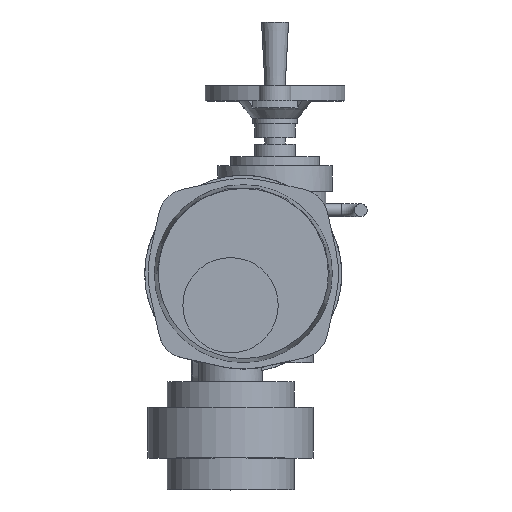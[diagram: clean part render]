
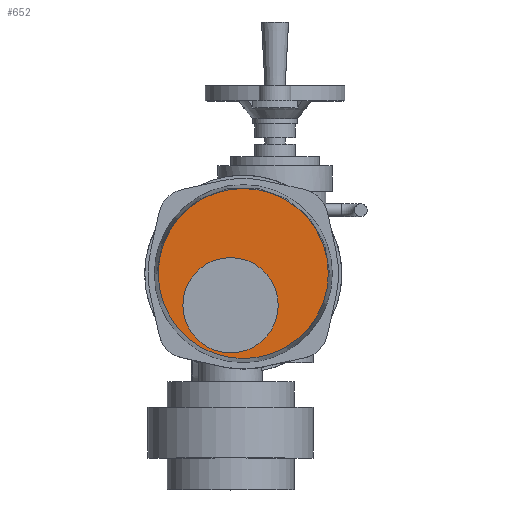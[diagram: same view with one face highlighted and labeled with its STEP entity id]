
A CAD part, top view. The second image highlights one B-rep face of the part: STEP entity #652.
In plain terms, the highlighted planar face has unit normal (0, 0, 1).
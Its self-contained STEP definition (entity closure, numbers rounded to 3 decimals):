
#652=ADVANCED_FACE('',(#7052,#7054),#7056,.T.);
#7052=FACE_BOUND('',#7053,.T.);
#7053=EDGE_LOOP('',(#12083));
#7054=FACE_BOUND('',#7055,.T.);
#7055=EDGE_LOOP('',(#12084));
#7056=PLANE('',#7057);
#7057=AXIS2_PLACEMENT_3D('',#7058,#7059,#7060);
#7058=CARTESIAN_POINT('',(15.,30.,432.));
#7059=DIRECTION('',(0.,0.,1.));
#7060=DIRECTION('',(-1.,0.,0.));
#12083=ORIENTED_EDGE('',*,*,#15923,.T.);
#12084=ORIENTED_EDGE('',*,*,#15926,.F.);
#15923=EDGE_CURVE('',#18045,#18045,#18046,.T.);
#15926=EDGE_CURVE('',#18051,#18051,#18052,.T.);
#18045=VERTEX_POINT('',#22384);
#18046=CIRCLE('',#22385,66.908);
#18051=VERTEX_POINT('',#22399);
#18052=CIRCLE('',#22400,37.5);
#22384=CARTESIAN_POINT('',(-51.908,30.,432.));
#22385=AXIS2_PLACEMENT_3D('',#22386,#22387,#22388);
#22386=CARTESIAN_POINT('',(15.,30.,432.));
#22387=DIRECTION('',(0.,0.,1.));
#22388=DIRECTION('',(-1.,0.,0.));
#22399=CARTESIAN_POINT('',(-32.5,5.,432.));
#22400=AXIS2_PLACEMENT_3D('',#22401,#22402,#22403);
#22401=CARTESIAN_POINT('',(5.,5.,432.));
#22402=DIRECTION('',(0.,0.,1.));
#22403=DIRECTION('',(-1.,0.,0.));
